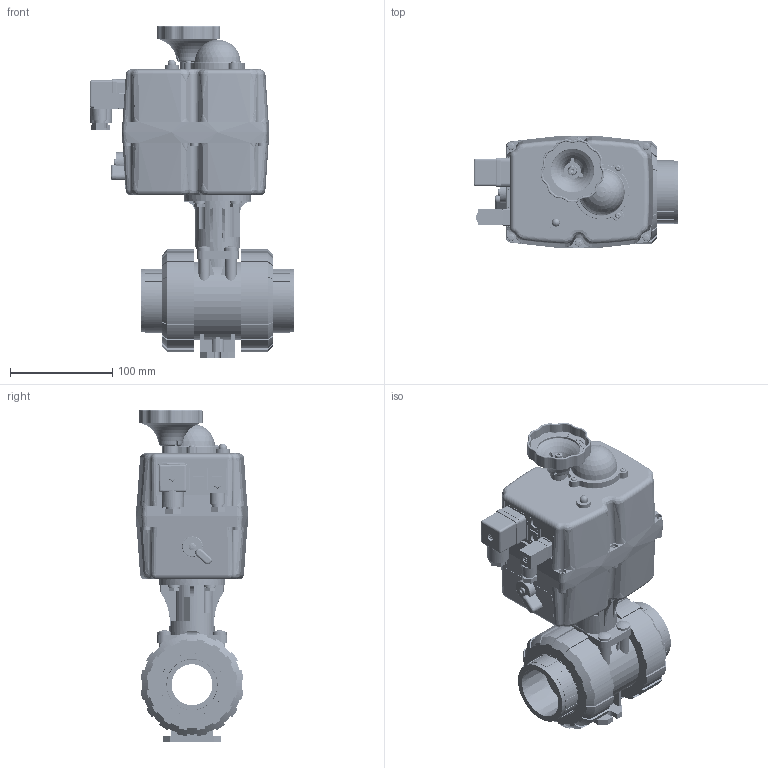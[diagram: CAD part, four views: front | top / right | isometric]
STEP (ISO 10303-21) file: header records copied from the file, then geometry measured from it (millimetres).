
FILE_DESCRIPTION((''),'2;1');
FILE_NAME('M:\3D-Files nach Lieferanten\TA-Produkte\angetriebene Armaturen\Register 9\PV 10053A\PV 10053A 050 S20.stp','2021-12-22T08:07:28',('RL'),(''),'Autodesk Inventor 2012','Autodesk Inventor 2012','');
FILE_SCHEMA(('AUTOMOTIVE_DESIGN { 1 0 10303 214 1 1 1 1 }'));
Length unit declared in the file: millimetre
Products named in the file (1): PV10053A_050_X20
Bounding box: 199.83 x 108.76 x 324.45 mm (x, y, z)
Volume: 1127726.8 mm3; surface area: 391641 mm2
Topology: 2 solids, 57 shells, 3580 faces, 9144 edges, 5790 vertices
Faces by surface type: plane 1488, cylinder 1045, torus 416, bspline 368, cone 213, sphere 50
Full cylindrical faces by diameter (mm): 1.5 x10, 1.6 x6, 2.2 x5, 2.5 x4, 3 x31, 3.5 x39, 3.9 x2, 3.96 x8, 4 x26, 4.25 x6, 4.5 x1, 4.7 x3, 4.9 x2, 5 x10, 5.7 x3, 6 x7, 6.4 x4, 6.5 x8, 6.8 x11, 7 x3, 7.5 x7, 8 x14, 8.05 x1, 8.1 x1, 8.5 x4, 8.88 x4, 8.9 x3, 9 x2, 10 x5, 10.2 x1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
Entity records: 165944 total; most frequent: CARTESIAN_POINT 83022, DIRECTION 17300, ORIENTED_EDGE 16694, EDGE_CURVE 8347, AXIS2_PLACEMENT_3D 6825, VERTEX_POINT 5522, EDGE_LOOP 4288, VECTOR 3650
